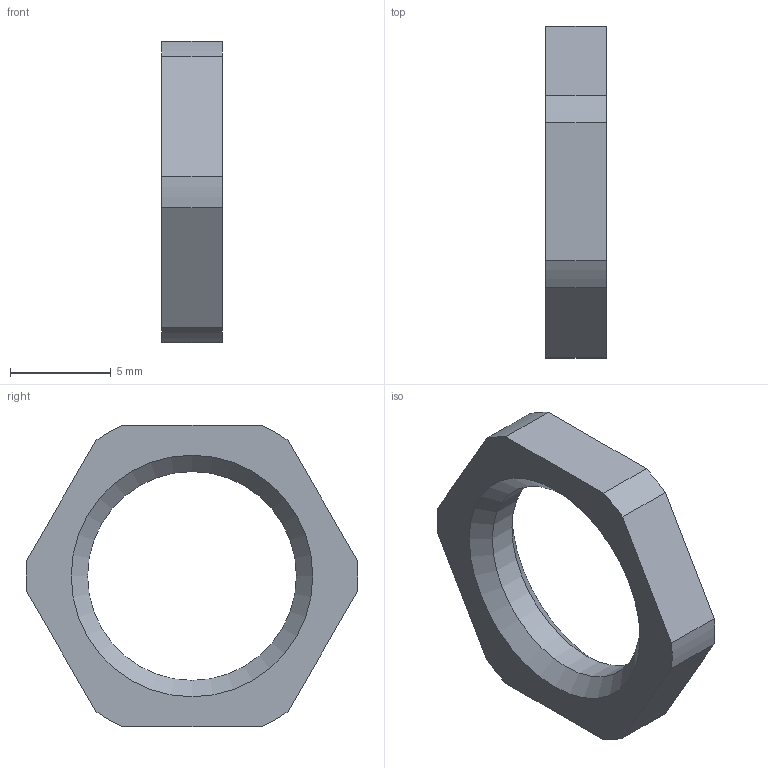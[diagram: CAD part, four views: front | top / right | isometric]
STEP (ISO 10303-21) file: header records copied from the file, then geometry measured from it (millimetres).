
FILE_DESCRIPTION( ( 'STEP AP214' ), '1' );
FILE_NAME( 'p:/temp/worker_3/temp/app_80_02018121420562166815449192d056f_000000_00_00_000000/format_1/6006E-12.stp', '2018-12-14T19:56:26', ( '' ), ( '' ), ' ', 'PARTsolutions', ' ' );
FILE_SCHEMA( ( 'AUTOMOTIVE_DESIGN { 1 0 10303 214 1 1 1 1 }' ) );
Length unit declared in the file: millimetre
Products named in the file (1): _6006E-12
Bounding box: 3 x 16.49 x 15 mm (x, y, z)
Volume: 302.7 mm3; surface area: 437 mm2
Topology: 1 solids, 1 shells, 17 faces, 43 edges, 28 vertices
Faces by surface type: plane 8, cylinder 7, cone 2
Full cylindrical faces by diameter (mm): 10.376 x1
Entity records: 658 total; most frequent: DIRECTION 92, CARTESIAN_POINT 86, ORIENTED_EDGE 80, EDGE_CURVE 40, AXIS2_PLACEMENT_3D 34, VERTEX_POINT 28, LINE 24, VECTOR 24
